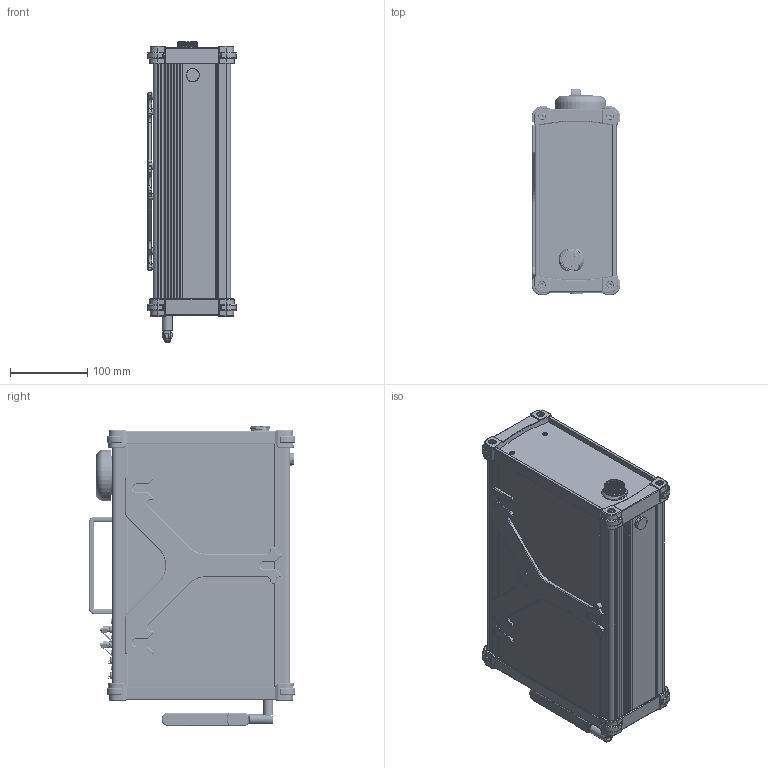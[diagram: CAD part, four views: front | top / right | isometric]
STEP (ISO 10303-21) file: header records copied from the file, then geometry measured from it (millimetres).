
FILE_DESCRIPTION(/* description */ (''),/* implementation_level */ '2;1');
FILE_NAME(/* name */ 'C:\RELEASES\PCS\3d_PCS\211010\BASIC-211010\BASIC211010_website\PCS - BASIC - Wall mount -211010.stp',/* time_stamp */ '2023-02-16T08:50:40+01:00',/* author */ ('cda1'),/* organization */ (''),/* preprocessor_version */ 'ST-DEVELOPER v17',/* originating_system */ 'Autodesk Inventor 2018',/* authorisation */ '');
FILE_SCHEMA (('AUTOMOTIVE_DESIGN { 1 0 10303 214 3 1 1 }'));
Products named in the file (1): 3d_PCS -  BASIC - Wall mount - Dummy
Bounding box: 114 x 267 x 388.32 mm (x, y, z)
Volume: 1167038.7 mm3; surface area: 826451.2 mm2
Topology: 72 solids, 76 shells, 4140 faces, 10416 edges, 6642 vertices
Faces by surface type: plane 1663, cylinder 1345, bspline 463, cone 269, torus 248, sphere 152
Full cylindrical faces by diameter (mm): 0.7 x68, 0.92 x4, 1 x4, 1.15 x68, 1.3 x2, 1.442 x2, 2 x2, 2.013 x3, 2.459 x5, 2.5 x12, 3 x15, 3.2 x6, 3.3 x2, 4 x3, 4.1 x2, 4.134 x4, 4.2 x4, 4.5 x2, 4.63 x2, 5 x8, 5.2 x8, 5.35 x2, 5.5 x8, 5.7 x5, 5.84 x3, 6 x20, 6.223 x1, 6.5 x6, 6.6 x2, 7.2 x6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
Entity records: 157453 total; most frequent: CARTESIAN_POINT 53723, DIRECTION 20883, ORIENTED_EDGE 20758, EDGE_CURVE 10387, AXIS2_PLACEMENT_3D 7952, VERTEX_POINT 6642, LINE 4979, VECTOR 4979
